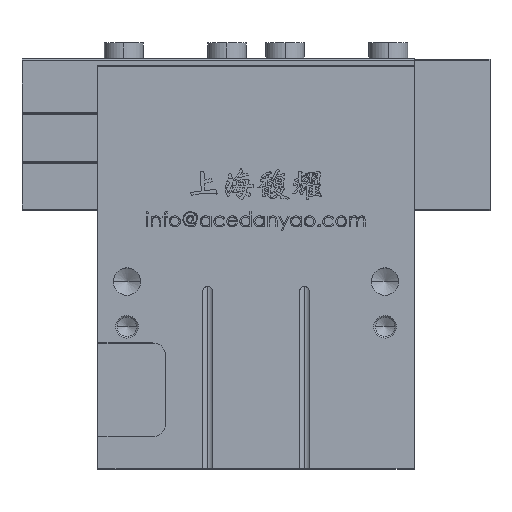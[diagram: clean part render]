
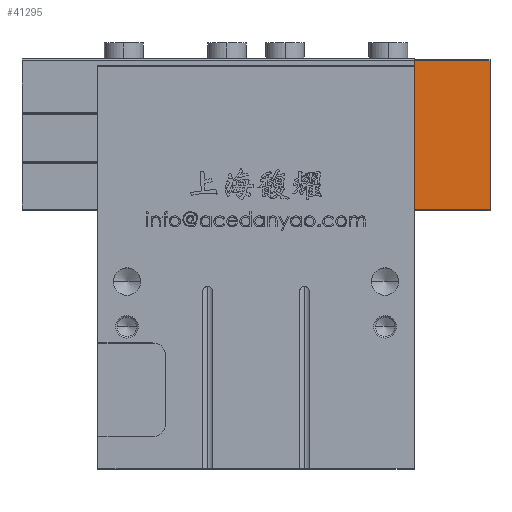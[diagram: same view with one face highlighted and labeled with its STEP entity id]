
A CAD part, top view. The second image highlights one B-rep face of the part: STEP entity #41295.
In plain terms, the highlighted planar face has unit normal (0, 0, 1) as drawn and (0, 0, -1) by its records, which use the part's own axes.
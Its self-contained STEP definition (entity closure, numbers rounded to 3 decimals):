
#193 = VERTEX_POINT ( 'NONE', #7214 ) ;
#543 = VECTOR ( 'NONE', #46727, 1000. ) ;
#6084 = PLANE ( 'NONE',  #22869 ) ;
#6253 = DIRECTION ( 'NONE',  ( 0., 0., -1. ) ) ;
#6765 = VERTEX_POINT ( 'NONE', #19811 ) ;
#7214 = CARTESIAN_POINT ( 'NONE',  ( -121.5, 46.5, 0. ) ) ;
#10482 = VECTOR ( 'NONE', #45158, 1000. ) ;
#10486 = LINE ( 'NONE', #24332, #543 ) ;
#11412 = CARTESIAN_POINT ( 'NONE',  ( -121.5, 0.5, 0. ) ) ;
#12107 = EDGE_CURVE ( 'NONE', #41803, #6765, #29461, .T. ) ;
#14091 = CARTESIAN_POINT ( 'NONE',  ( 0., 46.5, 0. ) ) ;
#16043 = EDGE_CURVE ( 'NONE', #45967, #41803, #26065, .T. ) ;
#17281 = CARTESIAN_POINT ( 'NONE',  ( 0., 0.5, 0. ) ) ;
#17850 = DIRECTION ( 'NONE',  ( -1., 0., 0. ) ) ;
#18488 = ORIENTED_EDGE ( 'NONE', *, *, #12107, .T. ) ;
#19555 = ORIENTED_EDGE ( 'NONE', *, *, #16043, .T. ) ;
#19811 = CARTESIAN_POINT ( 'NONE',  ( -121.5, 0.5, 0. ) ) ;
#20996 = ORIENTED_EDGE ( 'NONE', *, *, #39471, .T. ) ;
#21617 = CARTESIAN_POINT ( 'NONE',  ( -121.5, 0.5, 0. ) ) ;
#22869 = AXIS2_PLACEMENT_3D ( 'NONE', #28683, #6253, #32465 ) ;
#23459 = EDGE_CURVE ( 'NONE', #6765, #193, #35689, .T. ) ;
#24332 = CARTESIAN_POINT ( 'NONE',  ( -121.5, 46.5, 0. ) ) ;
#24564 = FACE_OUTER_BOUND ( 'NONE', #30024, .T. ) ;
#26065 = LINE ( 'NONE', #17281, #36007 ) ;
#28683 = CARTESIAN_POINT ( 'NONE',  ( -121.5, 0.5, 0. ) ) ;
#29461 = LINE ( 'NONE', #21617, #46977 ) ;
#30024 = EDGE_LOOP ( 'NONE', ( #31190, #20996, #19555, #18488 ) ) ;
#31190 = ORIENTED_EDGE ( 'NONE', *, *, #23459, .T. ) ;
#32465 = DIRECTION ( 'NONE',  ( -1., 0., 0. ) ) ;
#35689 = LINE ( 'NONE', #11412, #10482 ) ;
#36007 = VECTOR ( 'NONE', #39213, 1000. ) ;
#37965 = CARTESIAN_POINT ( 'NONE',  ( 0., 0.5, 0. ) ) ;
#39213 = DIRECTION ( 'NONE',  ( 0., -1., 0. ) ) ;
#39471 = EDGE_CURVE ( 'NONE', #193, #45967, #10486, .T. ) ;
#41295 = ADVANCED_FACE ( 'NONE', ( #24564 ), #6084, .T. ) ;
#41803 = VERTEX_POINT ( 'NONE', #37965 ) ;
#45158 = DIRECTION ( 'NONE',  ( 0., 1., 0. ) ) ;
#45967 = VERTEX_POINT ( 'NONE', #14091 ) ;
#46727 = DIRECTION ( 'NONE',  ( 1., 0., 0. ) ) ;
#46977 = VECTOR ( 'NONE', #17850, 1000. ) ;
